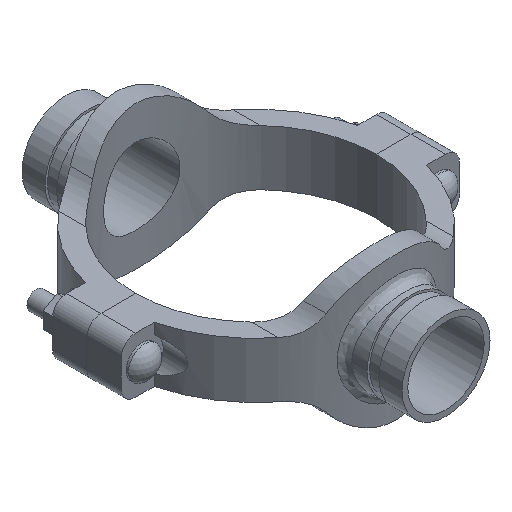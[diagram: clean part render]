
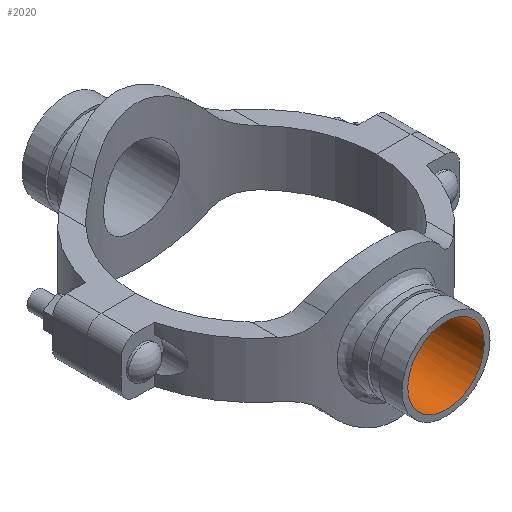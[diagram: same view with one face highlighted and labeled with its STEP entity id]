
A CAD part, isometric view. The second image highlights one B-rep face of the part: STEP entity #2020.
In plain terms, the highlighted cylindrical face has radius 26.194 mm (diameter 52.387 mm), a full revolution.
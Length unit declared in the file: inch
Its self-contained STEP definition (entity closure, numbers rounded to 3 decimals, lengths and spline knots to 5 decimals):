
#52=B_SPLINE_CURVE_WITH_KNOTS('',3,(#4092,#4093,#4094,#4095,#4096,#4097,
#4098,#4099,#4100,#4101,#4102,#4103,#4104,#4105,#4106,#4107,#4108,#4109,
#4110,#4111,#4112,#4113,#4114,#4115,#4116,#4117,#4118,#4119,#4120,#4121,
#4122,#4123,#4124,#4125,#4126,#4127,#4128,#4129,#4130,#4131,#4132,#4133,
#4134,#4135,#4136,#4137,#4138,#4139,#4140,#4141,#4142,#4143,#4144,#4145,
#4146,#4147,#4148,#4149,#4150,#4151,#4152,#4153,#4154,#4155,#4156,#4157),
 .UNSPECIFIED.,.T.,.F.,(4,2,2,2,2,2,2,2,2,2,2,2,2,2,2,2,2,2,2,2,2,2,2,2,
2,2,2,2,2,2,2,2,4),(0.,0.49717,0.99434,1.49151,
1.98868,2.48566,2.98264,3.47962,3.9766,
4.47359,4.97057,5.46755,5.96453,6.4617,
6.95887,7.45604,7.95321,8.45038,8.94755,
9.44472,9.94188,10.43887,10.93585,11.43283,
11.92981,12.42679,12.92378,13.42076,13.91774,
14.41491,14.91208,15.40925,15.90642),
 .UNSPECIFIED.);
#99=CYLINDRICAL_SURFACE('',#2261,1.03125);
#218=FACE_OUTER_BOUND('',#342,.T.);
#342=EDGE_LOOP('',(#1624,#1625,#1626,#1627));
#494=LINE('',#4091,#644);
#644=VECTOR('',#2736,1.03125);
#748=CIRCLE('',#2262,1.03125);
#917=VERTEX_POINT('',#4088);
#918=VERTEX_POINT('',#4090);
#1168=EDGE_CURVE('',#917,#917,#748,.T.);
#1169=EDGE_CURVE('',#917,#918,#494,.T.);
#1170=EDGE_CURVE('',#918,#918,#52,.T.);
#1624=ORIENTED_EDGE('',*,*,#1168,.F.);
#1625=ORIENTED_EDGE('',*,*,#1169,.T.);
#1626=ORIENTED_EDGE('',*,*,#1170,.F.);
#1627=ORIENTED_EDGE('',*,*,#1169,.F.);
#2020=ADVANCED_FACE('',(#218),#99,.F.);
#2261=AXIS2_PLACEMENT_3D('',#4087,#2732,#2733);
#2262=AXIS2_PLACEMENT_3D('',#4089,#2734,#2735);
#2732=DIRECTION('center_axis',(0.,-1.,0.));
#2733=DIRECTION('ref_axis',(-1.,0.,0.));
#2734=DIRECTION('center_axis',(0.,-1.,0.));
#2735=DIRECTION('ref_axis',(-1.,0.,0.));
#2736=DIRECTION('',(0.,-1.,0.));
#4087=CARTESIAN_POINT('Origin',(0.,5.13,0.));
#4088=CARTESIAN_POINT('',(1.03125,5.13,0.));
#4089=CARTESIAN_POINT('Origin',(0.,5.13,0.));
#4090=CARTESIAN_POINT('',(1.03125,3.08205,0.));
#4091=CARTESIAN_POINT('',(1.03125,5.13,0.));
#4092=CARTESIAN_POINT('Ctrl Pts',(1.03125,3.08205,0.));
#4093=CARTESIAN_POINT('Ctrl Pts',(1.03125,3.08205,-0.06525));
#4094=CARTESIAN_POINT('Ctrl Pts',(1.02496,3.08418,-0.13256));
#4095=CARTESIAN_POINT('Ctrl Pts',(0.99863,3.0928,-0.26616));
#4096=CARTESIAN_POINT('Ctrl Pts',(0.97861,3.09929,-0.33245));
#4097=CARTESIAN_POINT('Ctrl Pts',(0.92585,3.11545,-0.45934));
#4098=CARTESIAN_POINT('Ctrl Pts',(0.89308,3.12513,-0.52005));
#4099=CARTESIAN_POINT('Ctrl Pts',(0.81753,3.14574,-0.63221));
#4100=CARTESIAN_POINT('Ctrl Pts',(0.77474,3.15665,-0.68367));
#4101=CARTESIAN_POINT('Ctrl Pts',(0.68369,3.17762,-0.77472));
#4102=CARTESIAN_POINT('Ctrl Pts',(0.63224,3.18842,-0.81751));
#4103=CARTESIAN_POINT('Ctrl Pts',(0.52007,3.20863,-0.89307));
#4104=CARTESIAN_POINT('Ctrl Pts',(0.45935,3.21801,-0.92585));
#4105=CARTESIAN_POINT('Ctrl Pts',(0.33243,3.23359,-0.97862));
#4106=CARTESIAN_POINT('Ctrl Pts',(0.26613,3.23978,-0.99864));
#4107=CARTESIAN_POINT('Ctrl Pts',(0.13253,3.24799,-1.02496));
#4108=CARTESIAN_POINT('Ctrl Pts',(0.06522,3.25,-1.03125));
#4109=CARTESIAN_POINT('Ctrl Pts',(-0.06522,3.25,-1.03125));
#4110=CARTESIAN_POINT('Ctrl Pts',(-0.13253,3.24799,-1.02496));
#4111=CARTESIAN_POINT('Ctrl Pts',(-0.26613,3.23978,-0.99864));
#4112=CARTESIAN_POINT('Ctrl Pts',(-0.33243,3.23359,-0.97862));
#4113=CARTESIAN_POINT('Ctrl Pts',(-0.45935,3.21801,-0.92585));
#4114=CARTESIAN_POINT('Ctrl Pts',(-0.52007,3.20863,-0.89307));
#4115=CARTESIAN_POINT('Ctrl Pts',(-0.63224,3.18842,-0.81751));
#4116=CARTESIAN_POINT('Ctrl Pts',(-0.68369,3.17762,-0.77472));
#4117=CARTESIAN_POINT('Ctrl Pts',(-0.77474,3.15665,-0.68367));
#4118=CARTESIAN_POINT('Ctrl Pts',(-0.81753,3.14574,-0.63221));
#4119=CARTESIAN_POINT('Ctrl Pts',(-0.89308,3.12513,-0.52005));
#4120=CARTESIAN_POINT('Ctrl Pts',(-0.92585,3.11545,-0.45934));
#4121=CARTESIAN_POINT('Ctrl Pts',(-0.97861,3.09929,-0.33245));
#4122=CARTESIAN_POINT('Ctrl Pts',(-0.99863,3.0928,-0.26616));
#4123=CARTESIAN_POINT('Ctrl Pts',(-1.02496,3.08418,-0.13256));
#4124=CARTESIAN_POINT('Ctrl Pts',(-1.03125,3.08205,-0.06525));
#4125=CARTESIAN_POINT('Ctrl Pts',(-1.03125,3.08205,0.06525));
#4126=CARTESIAN_POINT('Ctrl Pts',(-1.02496,3.08418,0.13256));
#4127=CARTESIAN_POINT('Ctrl Pts',(-0.99863,3.0928,0.26616));
#4128=CARTESIAN_POINT('Ctrl Pts',(-0.97861,3.09929,0.33245));
#4129=CARTESIAN_POINT('Ctrl Pts',(-0.92585,3.11545,0.45934));
#4130=CARTESIAN_POINT('Ctrl Pts',(-0.89308,3.12513,0.52005));
#4131=CARTESIAN_POINT('Ctrl Pts',(-0.81753,3.14574,0.63221));
#4132=CARTESIAN_POINT('Ctrl Pts',(-0.77474,3.15665,0.68367));
#4133=CARTESIAN_POINT('Ctrl Pts',(-0.68369,3.17762,0.77472));
#4134=CARTESIAN_POINT('Ctrl Pts',(-0.63224,3.18842,0.81751));
#4135=CARTESIAN_POINT('Ctrl Pts',(-0.52007,3.20863,0.89307));
#4136=CARTESIAN_POINT('Ctrl Pts',(-0.45935,3.21801,0.92585));
#4137=CARTESIAN_POINT('Ctrl Pts',(-0.33243,3.23359,0.97862));
#4138=CARTESIAN_POINT('Ctrl Pts',(-0.26613,3.23978,0.99864));
#4139=CARTESIAN_POINT('Ctrl Pts',(-0.13253,3.24799,1.02496));
#4140=CARTESIAN_POINT('Ctrl Pts',(-0.06522,3.25,1.03125));
#4141=CARTESIAN_POINT('Ctrl Pts',(0.06522,3.25,1.03125));
#4142=CARTESIAN_POINT('Ctrl Pts',(0.13253,3.24799,1.02496));
#4143=CARTESIAN_POINT('Ctrl Pts',(0.26613,3.23978,0.99864));
#4144=CARTESIAN_POINT('Ctrl Pts',(0.33243,3.23359,0.97862));
#4145=CARTESIAN_POINT('Ctrl Pts',(0.45935,3.21801,0.92585));
#4146=CARTESIAN_POINT('Ctrl Pts',(0.52007,3.20863,0.89307));
#4147=CARTESIAN_POINT('Ctrl Pts',(0.63224,3.18842,0.81751));
#4148=CARTESIAN_POINT('Ctrl Pts',(0.68369,3.17762,0.77472));
#4149=CARTESIAN_POINT('Ctrl Pts',(0.77474,3.15665,0.68367));
#4150=CARTESIAN_POINT('Ctrl Pts',(0.81753,3.14574,0.63221));
#4151=CARTESIAN_POINT('Ctrl Pts',(0.89308,3.12513,0.52005));
#4152=CARTESIAN_POINT('Ctrl Pts',(0.92585,3.11545,0.45934));
#4153=CARTESIAN_POINT('Ctrl Pts',(0.97861,3.09929,0.33245));
#4154=CARTESIAN_POINT('Ctrl Pts',(0.99863,3.0928,0.26616));
#4155=CARTESIAN_POINT('Ctrl Pts',(1.02496,3.08418,0.13256));
#4156=CARTESIAN_POINT('Ctrl Pts',(1.03125,3.08205,0.06525));
#4157=CARTESIAN_POINT('Ctrl Pts',(1.03125,3.08205,0.));
